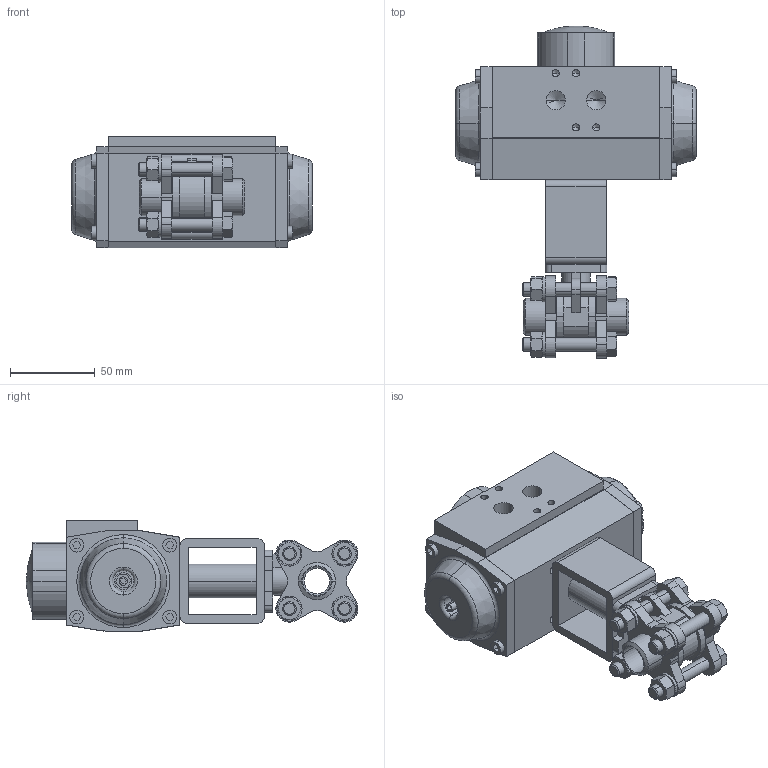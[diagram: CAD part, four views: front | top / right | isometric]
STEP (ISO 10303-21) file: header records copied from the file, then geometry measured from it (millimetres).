
FILE_DESCRIPTION (( 'STEP AP214' ), '1' );
FILE_NAME ('A13 DN15-1_2 BW + AP1D.STEP', '2012-04-23T09:22:59', ( '' ), ( '' ), 'SwSTEP 2.0', 'SolidWorks 2011', '' );
FILE_SCHEMA (( 'AUTOMOTIVE_DESIGN' ));
Length unit declared in the file: millimetre
Products named in the file (9): AP1_Default<As Machined>; Brugstuk simplified_YB5050F3F3-3; A13 DN15 Buttweld; Hexagon Nut ISO 4032 - M8 - D - N_Hexagon Nut ISO 4032 - M8 - D - N; Spring washer DIN 128 - A8_Spring washer DIN 128 - A8; ISO 4016 - M8 x 50 x 22-NN_ISO 4016 - M8 x 50 x 22-NN; A13 Flens Buttweld DN15; A13 KK DN15 PN63; A13 DN15-1_2 BW + AP1D
Assembly tree (18 placements, depth 3):
  A13 DN15-1_2 BW + AP1D
    AP1_Default<As Machined>
    Brugstuk simplified_YB5050F3F3-3
    A13 DN15 Buttweld
      Hexagon Nut ISO 4032 - M8 - D - N_Hexagon Nut ISO 4032 - M8 - D - N  x4
      A13 Flens Buttweld DN15  x2
      ISO 4016 - M8 x 50 x 22-NN_ISO 4016 - M8 x 50 x 22-NN  x4
      Spring washer DIN 128 - A8_Spring washer DIN 128 - A8  x4
      A13 KK DN15 PN63
Bounding box: 142 x 196.25 x 66 mm (x, y, z)
Volume: 677244.3 mm3; surface area: 113106.2 mm2
Topology: 27 solids, 27 shells, 714 faces, 1692 edges, 1053 vertices
Faces by surface type: plane 349, cylinder 191, cone 152, torus 20, sphere 2
Entity records: 16423 total; most frequent: CARTESIAN_POINT 2805, DIRECTION 2576, ORIENTED_EDGE 2388, EDGE_CURVE 1194, AXIS2_PLACEMENT_3D 898, VECTOR 780, LINE 780, VERTEX_POINT 773
